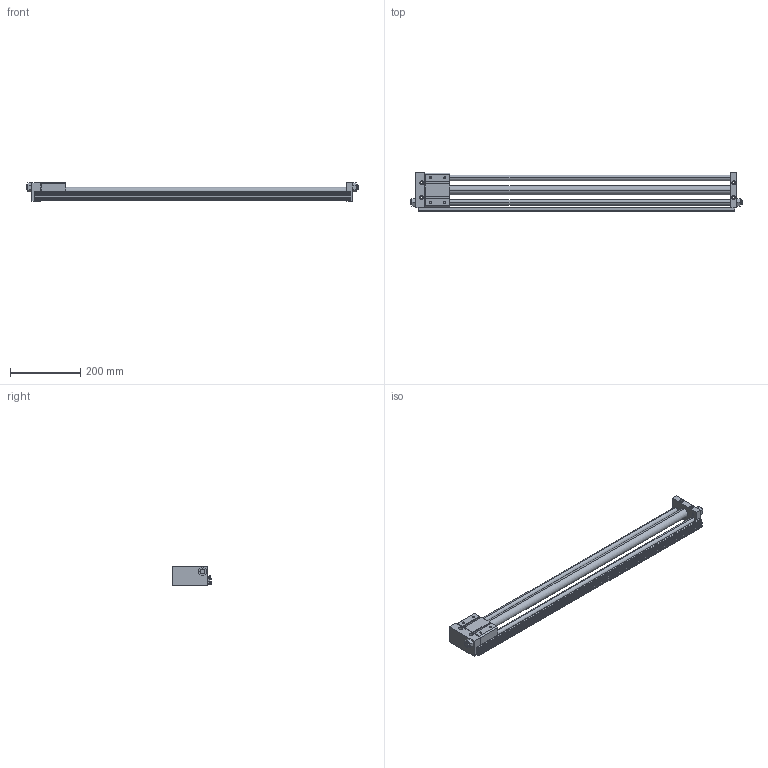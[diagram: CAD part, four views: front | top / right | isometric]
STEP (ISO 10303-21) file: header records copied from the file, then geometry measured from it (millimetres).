
FILE_DESCRIPTION((''),'2;1');
FILE_NAME('C:\Documents and Settings\Administrator\桌面\GYS\GYS25\GYSR25X800.stp','2012-03-06T10:24:13',('Administrator'),(''),'Autodesk Inventor 8','Autodesk Inventor 8','');
FILE_SCHEMA(('AUTOMOTIVE_DESIGN { 1 0 10303 214 1 1 1 1 }'));
Length unit declared in the file: millimetre
Products named in the file (3): GYSR25X800; GYS25X800; GYS25160X800
Assembly tree (2 placements, depth 2):
  GYSR25X800
    GYS25X800
    GYS25160X800
Bounding box: 947 x 110.5 x 54 mm (x, y, z)
Volume: 1442041.9 mm3; surface area: 327388.3 mm2
Topology: 2 solids, 2 shells, 276 faces, 718 edges, 468 vertices
Faces by surface type: plane 154, cylinder 80, cone 32, bspline 10
Entity records: 8662 total; most frequent: CARTESIAN_POINT 1609, DIRECTION 1476, ORIENTED_EDGE 1436, EDGE_CURVE 718, VECTOR 502, LINE 502, AXIS2_PLACEMENT_3D 487, VERTEX_POINT 468
